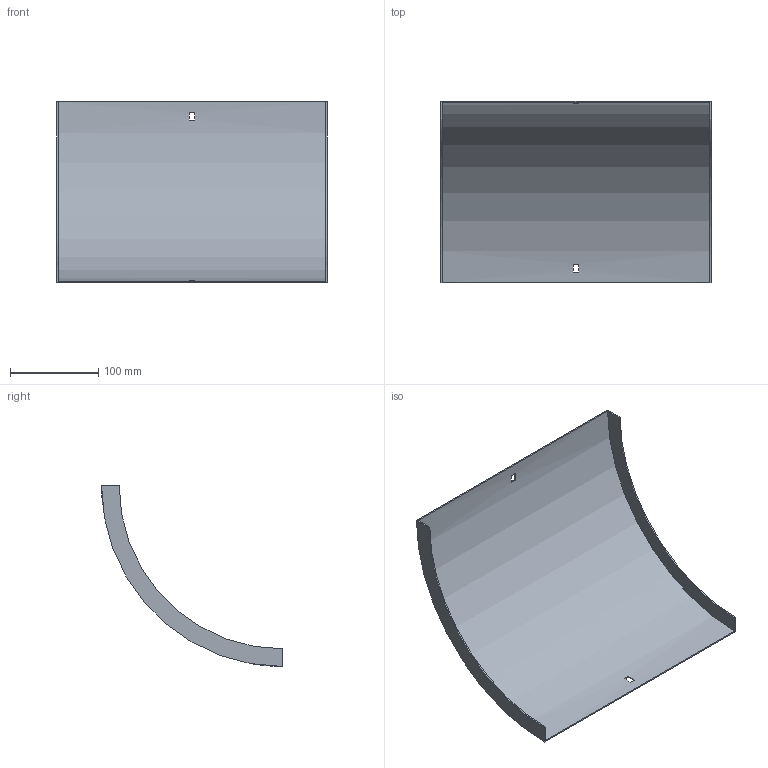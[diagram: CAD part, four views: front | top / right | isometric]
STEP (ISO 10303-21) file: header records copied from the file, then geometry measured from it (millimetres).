
FILE_DESCRIPTION (( 'STEP AP214' ), '1' );
FILE_NAME ('33N1D300.step', '2025-02-21T09:17:07', ( '' ), ( '' ), 'SwSTEP 2.0', 'SolidWorks 2023', '' );
FILE_SCHEMA (( 'AUTOMOTIVE_DESIGN' ));
Length unit declared in the file: millimetre
Products named in the file (1): 33N1D300
Bounding box: 307 x 205.5 x 205.5 mm (x, y, z)
Volume: 164908.3 mm3; surface area: 221880.8 mm2
Topology: 1 solids, 1 shells, 18 faces, 48 edges, 32 vertices
Faces by surface type: plane 14, cylinder 4
Entity records: 599 total; most frequent: DIRECTION 102, CARTESIAN_POINT 99, ORIENTED_EDGE 96, EDGE_CURVE 48, AXIS2_PLACEMENT_3D 35, VECTOR 32, LINE 32, VERTEX_POINT 32
